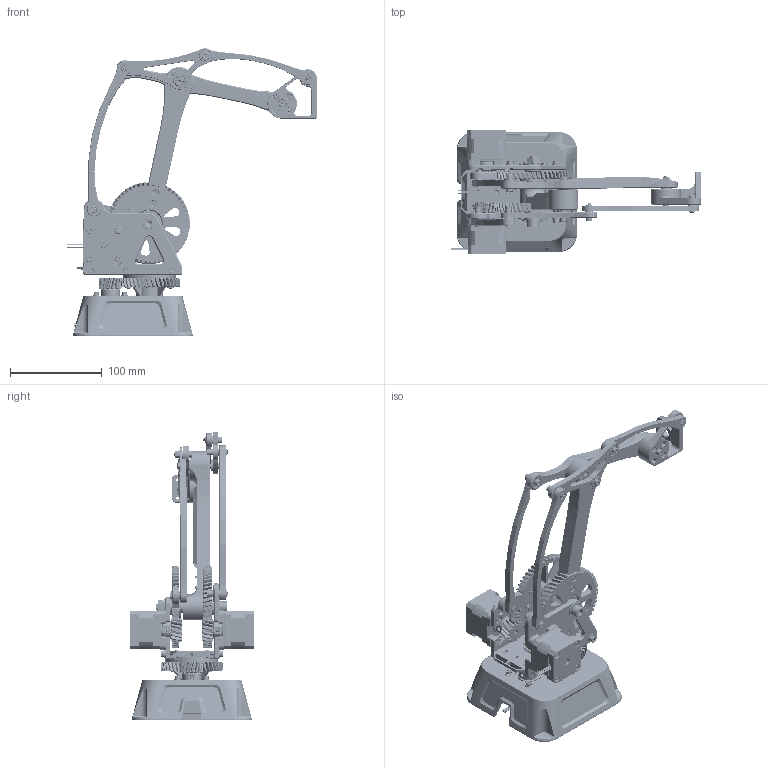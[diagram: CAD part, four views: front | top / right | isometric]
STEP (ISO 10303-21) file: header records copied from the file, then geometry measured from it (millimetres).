
FILE_DESCRIPTION(/* description */ (''),/* implementation_level */ '2;1');
FILE_NAME(/* name */ 'Robot_arm_V2.step',/* time_stamp */ '2026-11-24T14:32:48+01:00',/* author */ (''),/* organization */ (''),/* preprocessor_version */ 'ST-DEVELOPER v20.2',/* originating_system */ 'Autodesk Translation Framework v15.17.0.0',/* authorisation */ '');
FILE_SCHEMA (('AUTOMOTIVE_DESIGN { 1 0 10303 214 3 1 1 }'));
Products named in the file (166): Robot_arm_H2; Base; Pedestal; Gear_column; Main_gear_Z; Inner_spacer; Outer_spacer; Spacer; Mini_gear_Z; Mini gear big; Fasteners (2); 94645A208; 94645A208_1; 94645A208_2; 94645A208_3; 91292A114; 91292A114_1; 91292A114_2; 91292A114_3; Washer_M3 (1); Washer_M3 (1) (1); Washer_M3 (1) (2); Washer_M3 (1) (3); 91292A209_18-8 Stainless Steel Socket Head Screw; Motor (1); Bearings (1); 5972K501_Steel Ball Bearing; 5972K501_Steel Ball Bearing_1; Mid base; Support; Vertical_support_1; Vertical_support_2; Big_motor; Mid_motor; Mini_gear_shoulder; Mini_gear_elbow; Motor spacer (2); Motor spacer (1) (1); Fasteners (1); 90751A225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
Assembly tree (166 placements, depth 5):
  Robot_arm_H2
    Base
      Pedestal
      Gear_column
      Main_gear_Z
      Inner_spacer
      Outer_spacer
      Spacer
      Mini_gear_Z
        Mini gear big
      Fasteners (2)
        94645A208
        94645A208_1
        94645A208_2
        94645A208_3
        91292A114
        91292A114_1
        91292A114_2
        91292A114_3
        Washer_M3 (1)
        Washer_M3 (1) (1)
        Washer_M3 (1) (2)
        Washer_M3 (1) (3)
        91292A209_18-8 Stainless Steel Socket Head Screw
      Motor (1)
      Bearings (1)
        5972K501_Steel Ball Bearing
        5972K501_Steel Ball Bearing_1
    Mid base
      Support
      Vertical_support_1
      Vertical_support_2
      Big_motor
      Mid_motor
      Mini_gear_shoulder
      Mini_gear_elbow
      Motor spacer (2)
      Motor spacer (1) (1)
      Fasteners (1)
        90751A225
        90751A225_1
        90751A225_2
        90751A225_3
        90751A225_4
        90751A225_5
        Washer_M4 (1)
        Washer_M4 (1) (1)
        Washer_M4 (1) (2)
        Washer_M4 (1) (3)
        Washer_M4 (1) (4)
        Washer_M4 (1) (5)
        91292A114_4
          94645A208_4
        91292A114_5
        91292A114_6
        91292A114_7
        91292A114_8
        91292A114_9
        91292A114_10
        91292A114_11
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Bounding box: 272.63 x 136.17 x 314.25 mm (x, y, z)
Volume: 653754.6 mm3; surface area: 418726 mm2
Topology: 260 solids, 640 shells, 13155 faces, 33232 edges, 21583 vertices
Faces by surface type: plane 5316, cylinder 4076, bspline 1762, cone 1452, torus 473, sphere 76
Full cylindrical faces by diameter (mm): 1.153 x12, 2.35 x514, 2.4 x6, 2.5 x16, 2.702 x2, 3 x517, 3.091 x451, 3.16 x12, 3.2 x4, 3.3 x37, 4 x500, 4.102 x5, 4.2 x54, 4.3 x9, 4.4 x2, 4.5 x1, 4.8 x12, 5 x6, 5.06 x12, 5.5 x28, 5.6 x6, 6 x12, 6.376 x42, 6.45 x24, 6.485 x22, 6.5 x12, 6.7 x22, 6.701 x4, 6.8 x2, 6.848 x1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
Entity records: 667295 total; most frequent: CARTESIAN_POINT 371469, ORIENTED_EDGE 65900, DIRECTION 52455, EDGE_CURVE 32951, VERTEX_POINT 21513, AXIS2_PLACEMENT_3D 18901, LINE 14653, VECTOR 14653
